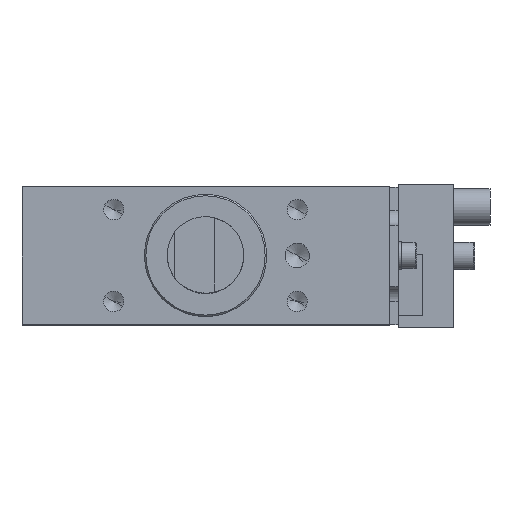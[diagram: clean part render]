
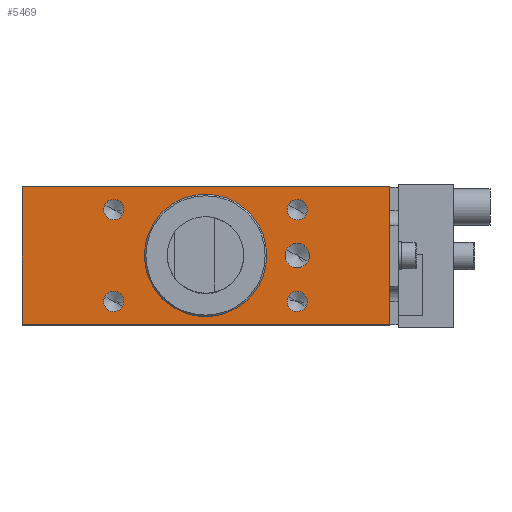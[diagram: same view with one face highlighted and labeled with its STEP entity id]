
A CAD part, top view. The second image highlights one B-rep face of the part: STEP entity #5469.
In plain terms, the highlighted planar face has unit normal (0, 0, 1).
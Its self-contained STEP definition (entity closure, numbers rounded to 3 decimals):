
#121=AXIS2_PLACEMENT_3D('Circle Axis2P3D',#119,#120,$) ;
#159=AXIS2_PLACEMENT_3D('Circle Axis2P3D',#157,#158,$) ;
#394=AXIS2_PLACEMENT_3D('Circle Axis2P3D',#392,#393,$) ;
#437=AXIS2_PLACEMENT_3D('Circle Axis2P3D',#435,#436,$) ;
#475=AXIS2_PLACEMENT_3D('Circle Axis2P3D',#473,#474,$) ;
#501=AXIS2_PLACEMENT_3D('Circle Axis2P3D',#499,#500,$) ;
#523=AXIS2_PLACEMENT_3D('Circle Axis2P3D',#521,#522,$) ;
#558=AXIS2_PLACEMENT_3D('Circle Axis2P3D',#556,#557,$) ;
#580=AXIS2_PLACEMENT_3D('Circle Axis2P3D',#578,#579,$) ;
#615=AXIS2_PLACEMENT_3D('Circle Axis2P3D',#613,#614,$) ;
#637=AXIS2_PLACEMENT_3D('Circle Axis2P3D',#635,#636,$) ;
#672=AXIS2_PLACEMENT_3D('Circle Axis2P3D',#670,#671,$) ;
#5437=AXIS2_PLACEMENT_3D('Plane Axis2P3D',#5434,#5435,#5436) ;
#119=CARTESIAN_POINT('Axis2P3D Location',(30.,0.,0.)) ;
#123=CARTESIAN_POINT('Vertex',(26.49,1.918,0.)) ;
#125=CARTESIAN_POINT('Vertex',(33.51,-1.918,0.)) ;
#157=CARTESIAN_POINT('Axis2P3D Location',(30.,0.,0.)) ;
#194=CARTESIAN_POINT('Vertex',(-60.,-22.5,0.)) ;
#197=CARTESIAN_POINT('Line Origine',(-60.,0.,0.)) ;
#201=CARTESIAN_POINT('Vertex',(-60.,22.5,0.)) ;
#221=CARTESIAN_POINT('Line Origine',(0.,22.5,0.)) ;
#225=CARTESIAN_POINT('Vertex',(60.,22.5,0.)) ;
#392=CARTESIAN_POINT('Axis2P3D Location',(-30.,-15.,0.)) ;
#396=CARTESIAN_POINT('Vertex',(-32.917,-13.407,0.)) ;
#398=CARTESIAN_POINT('Vertex',(-27.083,-16.593,0.)) ;
#435=CARTESIAN_POINT('Axis2P3D Location',(-30.,-15.,0.)) ;
#468=CARTESIAN_POINT('Vertex',(20.,0.,0.)) ;
#473=CARTESIAN_POINT('Axis2P3D Location',(0.,0.,0.)) ;
#477=CARTESIAN_POINT('Vertex',(-20.,0.,0.)) ;
#499=CARTESIAN_POINT('Axis2P3D Location',(0.,0.,0.)) ;
#521=CARTESIAN_POINT('Axis2P3D Location',(-30.,15.,0.)) ;
#525=CARTESIAN_POINT('Vertex',(-27.083,13.407,0.)) ;
#527=CARTESIAN_POINT('Vertex',(-32.917,16.593,0.)) ;
#556=CARTESIAN_POINT('Axis2P3D Location',(-30.,15.,0.)) ;
#578=CARTESIAN_POINT('Axis2P3D Location',(30.,-15.,0.)) ;
#582=CARTESIAN_POINT('Vertex',(32.917,-16.593,0.)) ;
#584=CARTESIAN_POINT('Vertex',(27.083,-13.407,0.)) ;
#613=CARTESIAN_POINT('Axis2P3D Location',(30.,-15.,0.)) ;
#635=CARTESIAN_POINT('Axis2P3D Location',(30.,15.,0.)) ;
#639=CARTESIAN_POINT('Vertex',(32.917,13.407,0.)) ;
#641=CARTESIAN_POINT('Vertex',(27.083,16.593,0.)) ;
#670=CARTESIAN_POINT('Axis2P3D Location',(30.,15.,0.)) ;
#5354=CARTESIAN_POINT('Line Origine',(60.,0.,0.)) ;
#5358=CARTESIAN_POINT('Vertex',(60.,-22.5,0.)) ;
#5390=CARTESIAN_POINT('Line Origine',(0.,-22.5,0.)) ;
#5434=CARTESIAN_POINT('Axis2P3D Location',(-60.,0.,0.)) ;
#120=DIRECTION('Axis2P3D Direction',(0.,-0.,-1.)) ;
#158=DIRECTION('Axis2P3D Direction',(0.,-0.,-1.)) ;
#198=DIRECTION('Vector Direction',(0.,1.,0.)) ;
#222=DIRECTION('Vector Direction',(1.,0.,0.)) ;
#393=DIRECTION('Axis2P3D Direction',(0.,-0.,-1.)) ;
#436=DIRECTION('Axis2P3D Direction',(0.,-0.,-1.)) ;
#474=DIRECTION('Axis2P3D Direction',(0.,0.,1.)) ;
#500=DIRECTION('Axis2P3D Direction',(0.,0.,1.)) ;
#522=DIRECTION('Axis2P3D Direction',(0.,0.,-1.)) ;
#557=DIRECTION('Axis2P3D Direction',(0.,0.,-1.)) ;
#579=DIRECTION('Axis2P3D Direction',(0.,0.,-1.)) ;
#614=DIRECTION('Axis2P3D Direction',(0.,0.,-1.)) ;
#636=DIRECTION('Axis2P3D Direction',(0.,0.,-1.)) ;
#671=DIRECTION('Axis2P3D Direction',(0.,0.,-1.)) ;
#5355=DIRECTION('Vector Direction',(0.,1.,0.)) ;
#5391=DIRECTION('Vector Direction',(1.,0.,0.)) ;
#5435=DIRECTION('Axis2P3D Direction',(0.,0.,1.)) ;
#5436=DIRECTION('Axis2P3D XDirection',(1.,0.,0.)) ;
#199=VECTOR('Line Direction',#198,1.) ;
#223=VECTOR('Line Direction',#222,1.) ;
#5356=VECTOR('Line Direction',#5355,1.) ;
#5392=VECTOR('Line Direction',#5391,1.) ;
#5440=ORIENTED_EDGE('',*,*,#203,.F.) ;
#5441=ORIENTED_EDGE('',*,*,#5394,.T.) ;
#5442=ORIENTED_EDGE('',*,*,#5360,.T.) ;
#5443=ORIENTED_EDGE('',*,*,#227,.F.) ;
#5446=ORIENTED_EDGE('',*,*,#127,.F.) ;
#5447=ORIENTED_EDGE('',*,*,#161,.F.) ;
#5450=ORIENTED_EDGE('',*,*,#400,.F.) ;
#5451=ORIENTED_EDGE('',*,*,#439,.F.) ;
#5454=ORIENTED_EDGE('',*,*,#479,.F.) ;
#5455=ORIENTED_EDGE('',*,*,#503,.F.) ;
#5458=ORIENTED_EDGE('',*,*,#529,.F.) ;
#5459=ORIENTED_EDGE('',*,*,#560,.F.) ;
#5462=ORIENTED_EDGE('',*,*,#586,.F.) ;
#5463=ORIENTED_EDGE('',*,*,#617,.F.) ;
#5466=ORIENTED_EDGE('',*,*,#643,.F.) ;
#5467=ORIENTED_EDGE('',*,*,#674,.F.) ;
#5448=FACE_BOUND('',#5445,.T.) ;
#5452=FACE_BOUND('',#5449,.T.) ;
#5456=FACE_BOUND('',#5453,.T.) ;
#5460=FACE_BOUND('',#5457,.T.) ;
#5464=FACE_BOUND('',#5461,.T.) ;
#5468=FACE_BOUND('',#5465,.T.) ;
#5469=ADVANCED_FACE('SZK_63_BR3_A32_T12_TUENKERS',(#5444,#5448,#5452,#5456,#5460,#5464,#5468),#5438,.T.) ;
#122=CIRCLE('generated circle',#121,4.) ;
#160=CIRCLE('generated circle',#159,4.) ;
#395=CIRCLE('generated circle',#394,3.324) ;
#438=CIRCLE('generated circle',#437,3.324) ;
#476=CIRCLE('generated circle',#475,20.) ;
#502=CIRCLE('generated circle',#501,20.) ;
#524=CIRCLE('generated circle',#523,3.324) ;
#559=CIRCLE('generated circle',#558,3.324) ;
#581=CIRCLE('generated circle',#580,3.324) ;
#616=CIRCLE('generated circle',#615,3.324) ;
#638=CIRCLE('generated circle',#637,3.324) ;
#673=CIRCLE('generated circle',#672,3.324) ;
#127=EDGE_CURVE('',#124,#126,#122,.F.) ;
#161=EDGE_CURVE('',#126,#124,#160,.F.) ;
#203=EDGE_CURVE('',#195,#202,#200,.T.) ;
#227=EDGE_CURVE('',#202,#226,#224,.T.) ;
#400=EDGE_CURVE('',#397,#399,#395,.F.) ;
#439=EDGE_CURVE('',#399,#397,#438,.F.) ;
#479=EDGE_CURVE('',#469,#478,#476,.T.) ;
#503=EDGE_CURVE('',#478,#469,#502,.T.) ;
#529=EDGE_CURVE('',#526,#528,#524,.F.) ;
#560=EDGE_CURVE('',#528,#526,#559,.F.) ;
#586=EDGE_CURVE('',#583,#585,#581,.F.) ;
#617=EDGE_CURVE('',#585,#583,#616,.F.) ;
#643=EDGE_CURVE('',#640,#642,#638,.F.) ;
#674=EDGE_CURVE('',#642,#640,#673,.F.) ;
#5360=EDGE_CURVE('',#5359,#226,#5357,.T.) ;
#5394=EDGE_CURVE('',#195,#5359,#5393,.T.) ;
#5439=EDGE_LOOP('',(#5440,#5441,#5442,#5443)) ;
#5445=EDGE_LOOP('',(#5446,#5447)) ;
#5449=EDGE_LOOP('',(#5450,#5451)) ;
#5453=EDGE_LOOP('',(#5454,#5455)) ;
#5457=EDGE_LOOP('',(#5458,#5459)) ;
#5461=EDGE_LOOP('',(#5462,#5463)) ;
#5465=EDGE_LOOP('',(#5466,#5467)) ;
#5444=FACE_OUTER_BOUND('',#5439,.T.) ;
#200=LINE('Line',#197,#199) ;
#224=LINE('Line',#221,#223) ;
#5357=LINE('Line',#5354,#5356) ;
#5393=LINE('Line',#5390,#5392) ;
#5438=PLANE('Plane',#5437) ;
#124=VERTEX_POINT('',#123) ;
#126=VERTEX_POINT('',#125) ;
#195=VERTEX_POINT('',#194) ;
#202=VERTEX_POINT('',#201) ;
#226=VERTEX_POINT('',#225) ;
#397=VERTEX_POINT('',#396) ;
#399=VERTEX_POINT('',#398) ;
#469=VERTEX_POINT('',#468) ;
#478=VERTEX_POINT('',#477) ;
#526=VERTEX_POINT('',#525) ;
#528=VERTEX_POINT('',#527) ;
#583=VERTEX_POINT('',#582) ;
#585=VERTEX_POINT('',#584) ;
#640=VERTEX_POINT('',#639) ;
#642=VERTEX_POINT('',#641) ;
#5359=VERTEX_POINT('',#5358) ;
